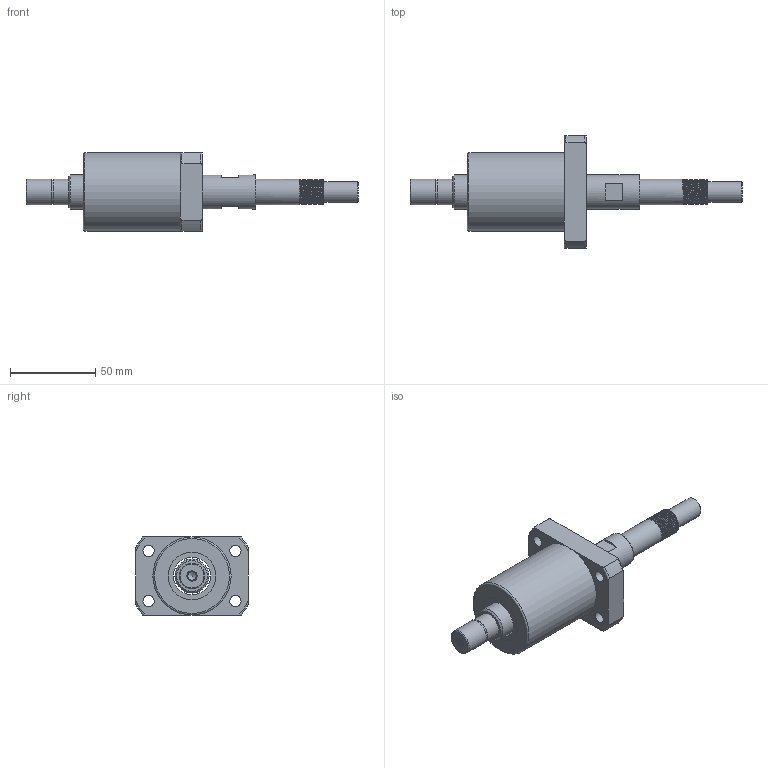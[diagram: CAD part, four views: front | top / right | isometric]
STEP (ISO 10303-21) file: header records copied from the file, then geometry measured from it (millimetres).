
FILE_DESCRIPTION (( 'STEP AP203' ), '1' );
FILE_NAME ('XSVR02020-00.STEP', '2023-08-01T01:59:19', ( '' ), ( '' ), 'SwSTEP 2.0', 'SolidWorks 2022', '' );
FILE_SCHEMA (( 'CONFIG_CONTROL_DESIGN' ));
Length unit declared in the file: millimetre
Products named in the file (1): XSVR02020-00
Bounding box: 195.18 x 66 x 46 mm (x, y, z)
Volume: 151153.9 mm3; surface area: 36525.1 mm2
Topology: 4 solids, 4 shells, 110 faces, 261 edges, 172 vertices
Faces by surface type: cylinder 58, plane 33, torus 9, cone 6, bspline 4
Full cylindrical faces by diameter (mm): 5 x15, 6.6 x4, 11 x4, 12 x1, 14.3 x1, 15 x16, 20 x1, 22 x3, 28 x4, 46 x1
Entity records: 7733 total; most frequent: CARTESIAN_POINT 6037, DIRECTION 336, ORIENTED_EDGE 274, AXIS2_PLACEMENT_3D 153, EDGE_LOOP 137, EDGE_CURVE 137, VERTEX_POINT 106, FACE_OUTER_BOUND 105
